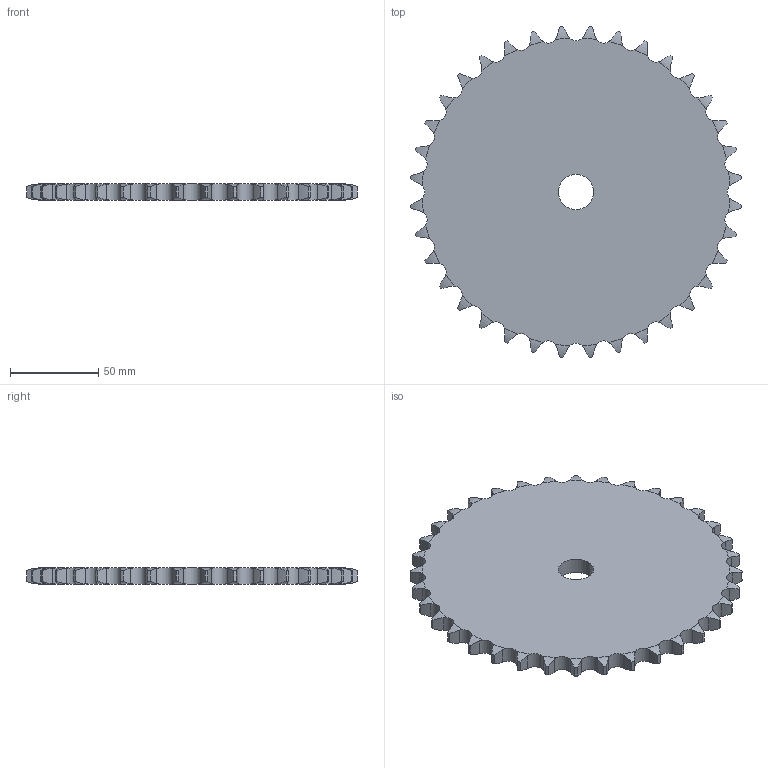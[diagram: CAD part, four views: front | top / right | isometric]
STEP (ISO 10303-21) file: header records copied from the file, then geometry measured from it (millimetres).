
FILE_DESCRIPTION((''),'2;1');
FILE_NAME('500-301-0036_PRT','2021-02-12T',('Brieden'),('Brieden'),'PRO/ENGINEER BY PARAMETRIC TECHNOLOGY CORPORATION, 2010160','PRO/ENGINEER BY PARAMETRIC TECHNOLOGY CORPORATION, 2010160','');
FILE_SCHEMA(('AUTOMOTIVE_DESIGN { 1 0 10303 214 1 1 1 1 }'));
Length unit declared in the file: millimetre
Products named in the file (1): 500-301-0036_PRT
Bounding box: 187.98 x 187.98 x 9.1 mm (x, y, z)
Volume: 223125.1 mm3; surface area: 57226.5 mm2
Topology: 1 solids, 1 shells, 220 faces, 654 edges, 436 vertices
Faces by surface type: cylinder 146, torus 72, plane 2
Entity records: 10800 total; most frequent: CARTESIAN_POINT 3215, ORIENTED_EDGE 1308, DIRECTION 1026, PRESENTATION_STYLE_ASSIGNMENT 655, STYLED_ITEM 655, CURVE_STYLE 654, EDGE_CURVE 654, AXIS2_PLACEMENT_3D 440
